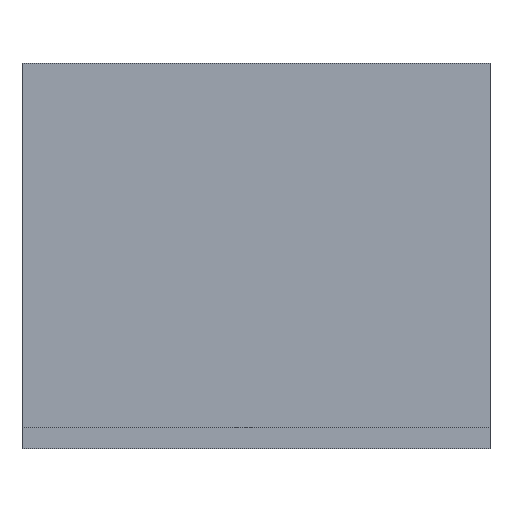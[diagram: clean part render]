
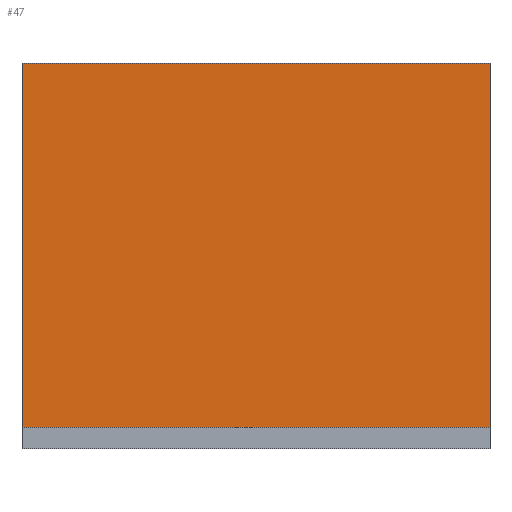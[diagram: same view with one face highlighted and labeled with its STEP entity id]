
A CAD part, front view. The second image highlights one B-rep face of the part: STEP entity #47.
In plain terms, the highlighted planar face has unit normal (0, -1, 0).
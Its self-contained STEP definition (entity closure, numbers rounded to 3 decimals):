
#47 = ADVANCED_FACE('',(#48),#62,.F.);
#48 = FACE_BOUND('',#49,.F.);
#49 = EDGE_LOOP('',(#50,#85,#113,#141));
#50 = ORIENTED_EDGE('',*,*,#51,.T.);
#51 = EDGE_CURVE('',#52,#54,#56,.T.);
#52 = VERTEX_POINT('',#53);
#53 = CARTESIAN_POINT('',(0.,0.,0.));
#54 = VERTEX_POINT('',#55);
#55 = CARTESIAN_POINT('',(0.,0.,21.));
#56 = SURFACE_CURVE('',#57,(#61,#73),.PCURVE_S1.);
#57 = LINE('',#58,#59);
#58 = CARTESIAN_POINT('',(0.,0.,0.));
#59 = VECTOR('',#60,1.);
#60 = DIRECTION('',(0.,0.,1.));
#61 = PCURVE('',#62,#67);
#62 = PLANE('',#63);
#63 = AXIS2_PLACEMENT_3D('',#64,#65,#66);
#64 = CARTESIAN_POINT('',(0.,0.,0.));
#65 = DIRECTION('',(0.,1.,0.));
#66 = DIRECTION('',(1.,0.,0.));
#67 = DEFINITIONAL_REPRESENTATION('',(#68),#72);
#68 = LINE('',#69,#70);
#69 = CARTESIAN_POINT('',(0.,0.));
#70 = VECTOR('',#71,1.);
#71 = DIRECTION('',(0.,-1.));
#72 = ( GEOMETRIC_REPRESENTATION_CONTEXT(2) 
PARAMETRIC_REPRESENTATION_CONTEXT() REPRESENTATION_CONTEXT('2D SPACE',''
  ) );
#73 = PCURVE('',#74,#79);
#74 = PLANE('',#75);
#75 = AXIS2_PLACEMENT_3D('',#76,#77,#78);
#76 = CARTESIAN_POINT('',(0.,17.,0.));
#77 = DIRECTION('',(1.,0.,0.));
#78 = DIRECTION('',(0.,-1.,0.));
#79 = DEFINITIONAL_REPRESENTATION('',(#80),#84);
#80 = LINE('',#81,#82);
#81 = CARTESIAN_POINT('',(17.,0.));
#82 = VECTOR('',#83,1.);
#83 = DIRECTION('',(0.,-1.));
#84 = ( GEOMETRIC_REPRESENTATION_CONTEXT(2) 
PARAMETRIC_REPRESENTATION_CONTEXT() REPRESENTATION_CONTEXT('2D SPACE',''
  ) );
#85 = ORIENTED_EDGE('',*,*,#86,.T.);
#86 = EDGE_CURVE('',#54,#87,#89,.T.);
#87 = VERTEX_POINT('',#88);
#88 = CARTESIAN_POINT('',(27.,0.,21.));
#89 = SURFACE_CURVE('',#90,(#94,#101),.PCURVE_S1.);
#90 = LINE('',#91,#92);
#91 = CARTESIAN_POINT('',(0.,0.,21.));
#92 = VECTOR('',#93,1.);
#93 = DIRECTION('',(1.,0.,0.));
#94 = PCURVE('',#62,#95);
#95 = DEFINITIONAL_REPRESENTATION('',(#96),#100);
#96 = LINE('',#97,#98);
#97 = CARTESIAN_POINT('',(0.,-21.));
#98 = VECTOR('',#99,1.);
#99 = DIRECTION('',(1.,0.));
#100 = ( GEOMETRIC_REPRESENTATION_CONTEXT(2) 
PARAMETRIC_REPRESENTATION_CONTEXT() REPRESENTATION_CONTEXT('2D SPACE',''
  ) );
#101 = PCURVE('',#102,#107);
#102 = PLANE('',#103);
#103 = AXIS2_PLACEMENT_3D('',#104,#105,#106);
#104 = CARTESIAN_POINT('',(13.5,8.5,21.));
#105 = DIRECTION('',(0.,0.,1.));
#106 = DIRECTION('',(1.,0.,0.));
#107 = DEFINITIONAL_REPRESENTATION('',(#108),#112);
#108 = LINE('',#109,#110);
#109 = CARTESIAN_POINT('',(-13.5,-8.5));
#110 = VECTOR('',#111,1.);
#111 = DIRECTION('',(1.,0.));
#112 = ( GEOMETRIC_REPRESENTATION_CONTEXT(2) 
PARAMETRIC_REPRESENTATION_CONTEXT() REPRESENTATION_CONTEXT('2D SPACE',''
  ) );
#113 = ORIENTED_EDGE('',*,*,#114,.F.);
#114 = EDGE_CURVE('',#115,#87,#117,.T.);
#115 = VERTEX_POINT('',#116);
#116 = CARTESIAN_POINT('',(27.,0.,0.));
#117 = SURFACE_CURVE('',#118,(#122,#129),.PCURVE_S1.);
#118 = LINE('',#119,#120);
#119 = CARTESIAN_POINT('',(27.,0.,0.));
#120 = VECTOR('',#121,1.);
#121 = DIRECTION('',(0.,0.,1.));
#122 = PCURVE('',#62,#123);
#123 = DEFINITIONAL_REPRESENTATION('',(#124),#128);
#124 = LINE('',#125,#126);
#125 = CARTESIAN_POINT('',(27.,0.));
#126 = VECTOR('',#127,1.);
#127 = DIRECTION('',(0.,-1.));
#128 = ( GEOMETRIC_REPRESENTATION_CONTEXT(2) 
PARAMETRIC_REPRESENTATION_CONTEXT() REPRESENTATION_CONTEXT('2D SPACE',''
  ) );
#129 = PCURVE('',#130,#135);
#130 = PLANE('',#131);
#131 = AXIS2_PLACEMENT_3D('',#132,#133,#134);
#132 = CARTESIAN_POINT('',(27.,0.,0.));
#133 = DIRECTION('',(-1.,0.,0.));
#134 = DIRECTION('',(0.,1.,0.));
#135 = DEFINITIONAL_REPRESENTATION('',(#136),#140);
#136 = LINE('',#137,#138);
#137 = CARTESIAN_POINT('',(0.,0.));
#138 = VECTOR('',#139,1.);
#139 = DIRECTION('',(0.,-1.));
#140 = ( GEOMETRIC_REPRESENTATION_CONTEXT(2) 
PARAMETRIC_REPRESENTATION_CONTEXT() REPRESENTATION_CONTEXT('2D SPACE',''
  ) );
#141 = ORIENTED_EDGE('',*,*,#142,.F.);
#142 = EDGE_CURVE('',#52,#115,#143,.T.);
#143 = SURFACE_CURVE('',#144,(#148,#155),.PCURVE_S1.);
#144 = LINE('',#145,#146);
#145 = CARTESIAN_POINT('',(0.,0.,0.));
#146 = VECTOR('',#147,1.);
#147 = DIRECTION('',(1.,0.,0.));
#148 = PCURVE('',#62,#149);
#149 = DEFINITIONAL_REPRESENTATION('',(#150),#154);
#150 = LINE('',#151,#152);
#151 = CARTESIAN_POINT('',(0.,0.));
#152 = VECTOR('',#153,1.);
#153 = DIRECTION('',(1.,0.));
#154 = ( GEOMETRIC_REPRESENTATION_CONTEXT(2) 
PARAMETRIC_REPRESENTATION_CONTEXT() REPRESENTATION_CONTEXT('2D SPACE',''
  ) );
#155 = PCURVE('',#156,#161);
#156 = PLANE('',#157);
#157 = AXIS2_PLACEMENT_3D('',#158,#159,#160);
#158 = CARTESIAN_POINT('',(0.,0.,0.));
#159 = DIRECTION('',(0.,-1.,0.));
#160 = DIRECTION('',(1.,0.,0.));
#161 = DEFINITIONAL_REPRESENTATION('',(#162),#166);
#162 = LINE('',#163,#164);
#163 = CARTESIAN_POINT('',(0.,0.));
#164 = VECTOR('',#165,1.);
#165 = DIRECTION('',(1.,0.));
#166 = ( GEOMETRIC_REPRESENTATION_CONTEXT(2) 
PARAMETRIC_REPRESENTATION_CONTEXT() REPRESENTATION_CONTEXT('2D SPACE',''
  ) );
